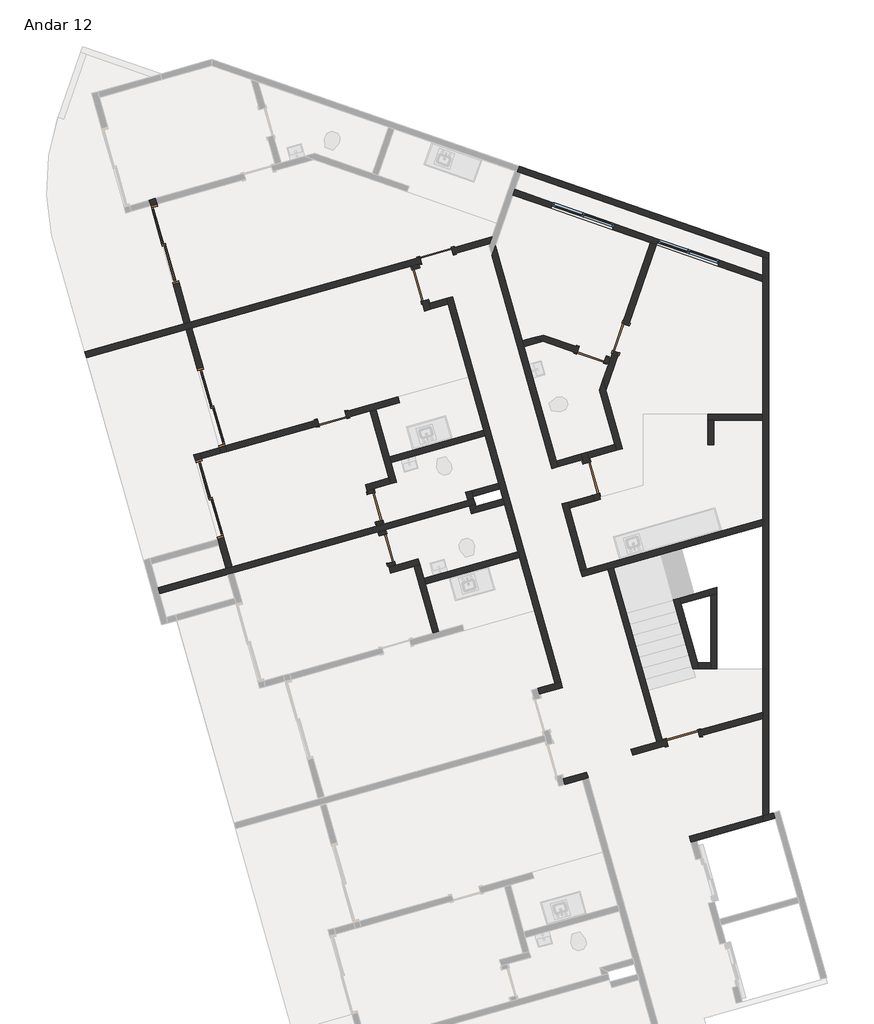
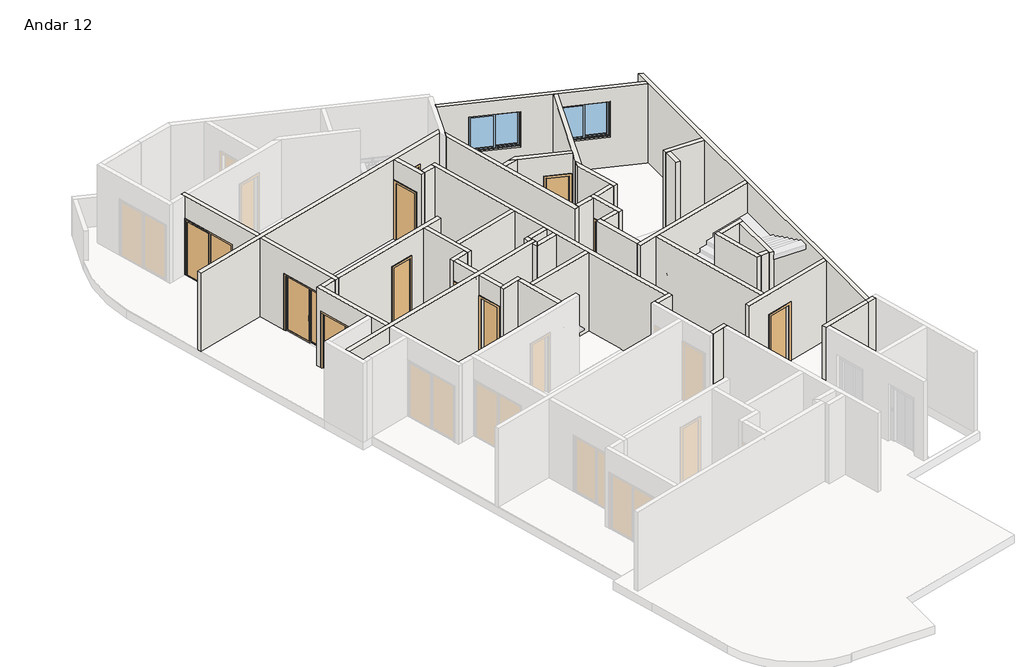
# One storey, part 2 of 3: 48 walls, 12 doors, 2 windows.
"""IFC4 building model written with IfcOpenShell, lengths in millimetres."""

from ifc_helpers import new_model, si_unit, frame, origin, place, context, project, spatial, polyline, outline, extrude, faceted_brep, transform, mapped, element, save
from components import p2_80cm_9d4be4ef, p2_80cm_083652d6, p3_70cm_ef4d15e3, p3_70cm_0a698c7c, p4_correr_200cm_eaaa0877, jx_160cm_e9e36a0c

model = new_model("IFC4")

# Units and contexts
model_context = context("Model", 3, world=origin())
ifc_project = project(units=[si_unit("LENGTHUNIT", "METRE", prefix="MILLI")], contexts=[model_context])

# Site, building, storey
site = spatial("IfcSite", under=ifc_project)
building = spatial("IfcBuilding", under=site)
storey = spatial("IfcBuildingStorey", under=building, Name="Andar 12", Elevation=85550.0)

# Doors
placement = place(None, origin())
p2_80cm_shape = p2_80cm_9d4be4ef(model_context)
element("IfcDoor", 1, ObjectType="M_Folha única1 : P2 - 80CM", at=placement, inside=storey, context=model_context, shape_type="MappedRepresentation", body=[
    mapped(p2_80cm_shape, transform((-83145.1128896, 30941.0402894, 85550.0), x_axis=(-0.9623628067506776, -0.2717679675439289, 0.0), y_axis=(0.2717679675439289, -0.9623628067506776, 0.0), z_axis=(0.0, 0.0, 1.0))),
])
element("IfcDoor", 2, ObjectType="M_Folha única1 : P2 - 80CM", at=placement, inside=storey, context=model_context, shape_type="MappedRepresentation", body=[
    mapped(p2_80cm_shape, transform((-79349.4097406, 25479.1041247, 85550.0), x_axis=(-0.27176796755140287, 0.962362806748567, 0.0), y_axis=(-0.962362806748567, -0.27176796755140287, 0.0), z_axis=(0.0, 0.0, 1.0))),
])
p2_80cm_2_shape = p2_80cm_083652d6(model_context)
element("IfcDoor", 3, ObjectType="M_Folha única1 : P2 - 80CM", at=placement, inside=storey, context=model_context, shape_type="MappedRepresentation", body=[
    mapped(p2_80cm_2_shape, transform((-83542.2049222, 30231.4150941, 85550.0), x_axis=(-0.2717679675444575, 0.9623628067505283, 0.0), y_axis=(-0.9623628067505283, -0.2717679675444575, 0.0), z_axis=(0.0, 0.0, 1.0))),
])
p3_70cm_shape = p3_70cm_ef4d15e3(model_context)
element("IfcDoor", 4, ObjectType="M_Folha única1 : P3 - 70CM", at=placement, inside=storey, context=model_context, shape_type="MappedRepresentation", body=[
    mapped(p3_70cm_shape, transform((-84650.97864, 24774.7108835, 85550.0), x_axis=(0.2717679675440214, -0.9623628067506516, 0.0), y_axis=(0.9623628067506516, 0.2717679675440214, 0.0), z_axis=(0.0, 0.0, 1.0))),
])
p3_70cm_2_shape = p3_70cm_0a698c7c(model_context)
element("IfcDoor", 5, ObjectType="M_Folha única1 : P3 - 70CM", at=placement, inside=storey, context=model_context, shape_type="MappedRepresentation", body=[
    mapped(p3_70cm_2_shape, transform((-84365.6222741, 23764.2299364, 85550.0), x_axis=(-0.2717679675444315, 0.9623628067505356, 0.0), y_axis=(-0.9623628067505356, -0.2717679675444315, 0.0), z_axis=(0.0, 0.0, 1.0))),
])
element("IfcDoor", 6, ObjectType="M_Folha única1 : P3 - 70CM", at=placement, inside=storey, context=model_context, shape_type="MappedRepresentation", body=[
    mapped(p3_70cm_2_shape, transform((-85705.4317558, 26944.8211633, 85550.0), x_axis=(0.9623628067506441, 0.2717679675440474, 0.0), y_axis=(-0.2717679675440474, 0.9623628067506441, 0.0), z_axis=(0.0, 0.0, 1.0))),
])
element("IfcDoor", 7, ObjectType="M_Folha única1 : P3 - 70CM", at=placement, inside=storey, context=model_context, shape_type="MappedRepresentation", body=[
    mapped(p3_70cm_2_shape, transform((-79346.1223746, 28509.6973665, 85550.0), x_axis=(0.9449109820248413, -0.32732741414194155, 0.0), y_axis=(0.32732741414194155, 0.9449109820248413, 0.0), z_axis=(0.0, 0.0, 1.0))),
])
element("IfcDoor", 8, ObjectType="M_Folha única1 : P3 - 70CM", at=placement, inside=storey, context=model_context, shape_type="MappedRepresentation", body=[
    mapped(p3_70cm_2_shape, transform((-78626.5662556, 28921.8732895, 85550.0), x_axis=(-0.32732741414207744, -0.9449109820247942, 0.0), y_axis=(0.9449109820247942, -0.32732741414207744, 0.0), z_axis=(0.0, 0.0, 1.0))),
])
p4_correr_200cm_shape = p4_correr_200cm_eaaa0877(model_context)
element("IfcDoor", 9, ObjectType="Porta de correr dupla envidraçada sem revestimento : P4 - CORRER - 200CM", at=placement, inside=storey, context=model_context, shape_type="MappedRepresentation", body=[
    mapped(p4_correr_200cm_shape, transform((-89799.7974026, 31217.9316171, 85550.0), x_axis=(0.27176796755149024, -0.9623628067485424, 0.0), y_axis=(0.9623628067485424, 0.27176796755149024, 0.0), z_axis=(0.0, 0.0, 1.0))),
])
element("IfcDoor", 10, ObjectType="Porta de correr dupla envidraçada sem revestimento : P4 - CORRER - 200CM", at=placement, inside=storey, context=model_context, shape_type="MappedRepresentation", body=[
    mapped(p4_correr_200cm_shape, transform((-88671.9603372, 27224.125969, 85550.0), x_axis=(-0.27176796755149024, 0.9623628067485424, 0.0), y_axis=(-0.9623628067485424, -0.27176796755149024, 0.0), z_axis=(0.0, 0.0, 1.0))),
])
element("IfcDoor", 11, ObjectType="Porta de correr dupla envidraçada sem revestimento : P4 - CORRER - 200CM", at=placement, inside=storey, context=model_context, shape_type="MappedRepresentation", body=[
    mapped(p4_correr_200cm_shape, transform((-88709.3738038, 24979.4758572, 85550.0), x_axis=(-0.2717679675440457, 0.9623628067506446, 0.0), y_axis=(-0.9623628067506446, -0.2717679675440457, 0.0), z_axis=(0.0, 0.0, 1.0))),
])
element("IfcDoor", 12, ObjectType="M_Folha única1 : PCF1 - 80CM", at=placement, inside=storey, context=model_context, shape_type="MappedRepresentation", body=[
    mapped(p2_80cm_shape, transform((-77103.5502958, 19127.1105693, 85550.0), x_axis=(-0.9623628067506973, -0.2717679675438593, 0.0), y_axis=(0.2717679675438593, -0.9623628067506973, 0.0), z_axis=(0.0, 0.0, 1.0))),
])

# Walls
element("IfcWall", 13, ObjectType="Básica .15 -  Interna", at=placement, inside=storey, context=model_context, shape_type="Brep", body=[
    faceted_brep([(-82901.0804648, 29892.9118737, 85550.0), (-82860.3152697, 29748.5574527, 85550.0), (-81990.6577736, 26668.9964711, 85550.0), (-81949.8925784, 26524.6420501, 85550.0), (-81623.7710174, 25369.806682, 85550.0), (-81583.0058223, 25225.452261, 85550.0), (-81515.0638304, 24984.8615593, 85550.0), (-81474.2986352, 24840.5071383, 85550.0), (-81148.1770742, 23685.6717702, 85550.0), (-81107.4118791, 23541.3173492, 85550.0), (-80237.7543829, 20461.7563676, 85550.0), (-80237.7543829, 20461.7563676, 88450.0), (-81107.4118791, 23541.3173492, 88450.0), (-81148.1770742, 23685.6717702, 88450.0), (-81474.2986352, 24840.5071383, 88450.0), (-81515.0638304, 24984.8615593, 88450.0), (-81583.0058223, 25225.452261, 88450.0), (-81623.7710174, 25369.806682, 88450.0), (-81949.8925784, 26524.6420501, 88450.0), (-81990.6577736, 26668.9964711, 88450.0), (-82860.3152697, 29748.5574527, 88450.0), (-82901.0804648, 29892.9118737, 88450.0), (-82756.7260438, 29933.6770689, 85550.0), (-82756.7260438, 29933.6770689, 88450.0), (-80093.3999619, 20502.5215627, 88450.0), (-80093.3999619, 20502.5215627, 85550.0)], [[[0, 1, 2, 3, 4, 5, 6, 7, 8, 9, 10, 11, 12, 13, 14, 15, 16, 17, 18, 19, 20, 21]], [[22, 23, 24, 25]], [[10, 9, 8, 7, 6, 5, 4, 3, 2, 1, 0, 22, 25]], [[21, 20, 19, 18, 17, 16, 15, 14, 13, 12, 11, 24, 23]], [[0, 21, 23, 22]], [[11, 10, 25, 24]]]),
])
element("IfcWall", 14, ObjectType="Básica .15 -  Interna", at=placement, inside=storey, context=model_context, shape_type="Brep", body=[
    faceted_brep([(-83750.2661164, 30692.2138999, 85550.0), (-83723.0893197, 30595.9776193, 85550.0), (-83723.0893197, 30595.9776193, 87650.0), (-83505.6749457, 29826.0873739, 87650.0), (-83505.6749457, 29826.0873739, 85550.0), (-83437.7329538, 29585.4966722, 85550.0), (-83437.7329538, 29585.4966722, 88450.0), (-83750.2661164, 30692.2138999, 88450.0), (-83578.7348987, 30636.7428144, 87650.0), (-83578.7348987, 30636.7428144, 85550.0), (-83605.9116954, 30732.9790951, 85550.0), (-83605.9116954, 30732.9790951, 88450.0), (-83334.1437279, 29770.6162883, 88450.0), (-83293.3785328, 29626.2618673, 88450.0), (-83293.3785328, 29626.2618673, 85550.0), (-83334.1437279, 29770.6162883, 85550.0), (-83361.3205246, 29866.852569, 85550.0), (-83361.3205246, 29866.852569, 87650.0)], [[[0, 1, 2, 3, 4, 5, 6, 7]], [[8, 9, 10, 11, 12, 13, 14, 15, 16, 17]], [[10, 9, 1, 0]], [[16, 15, 14, 5, 4]], [[7, 6, 13, 12, 11]], [[6, 5, 14, 13]], [[0, 7, 11, 10]], [[2, 1, 9, 8]], [[3, 2, 8, 17]], [[4, 3, 17, 16]]]),
])
element("IfcWall", 15, ObjectType="Básica .15 -  Interna", at=placement, inside=storey, context=model_context, shape_type="SweptSolid", body=[
    extrude(outline(polyline([(-82860.3152697, 29748.5574527), (-83293.3785328, 29626.2618673), (-83334.1437279, 29770.6162883), (-82901.0804648, 29892.9118737), (-82860.3152697, 29748.5574527)])), frame((0.0, 0.0, 85550.0), z_axis=(0.0, 0.0, 1.0), x_axis=(1.0, 0.0, 0.0)), (0.0, 0.0, 1.0), 2900.0),
])
element("IfcWall", 16, ObjectType="Básica .15 -  Interna", at=placement, inside=storey, context=model_context, shape_type="Brep", body=[
    faceted_brep([(-80093.3999619, 20502.5215627, 85550.0), (-80237.7543829, 20461.7563676, 85550.0), (-80670.817646, 20339.4607822, 85550.0), (-80670.817646, 20339.4607822, 88450.0), (-80237.7543829, 20461.7563676, 88450.0), (-80093.3999619, 20502.5215627, 88450.0), (-80052.6347668, 20358.1671417, 85550.0), (-80052.6347668, 20358.1671417, 88450.0), (-80630.0524508, 20195.1063612, 88450.0), (-80630.0524508, 20195.1063612, 85550.0)], [[[0, 1, 2, 3, 4, 5]], [[6, 7, 8, 9]], [[2, 1, 0, 6, 9]], [[5, 4, 3, 8, 7]], [[3, 2, 9, 8]], [[0, 5, 7, 6]]]),
])
element("IfcWall", 17, ObjectType="Básica .15 -  Interna", at=placement, inside=storey, context=model_context, shape_type="Brep", body=[
    faceted_brep([(-80004.9861255, 17981.6719056, 85550.0), (-79571.9228624, 18103.967491, 85550.0), (-79427.5684414, 18144.7326862, 85550.0), (-79427.5684414, 18144.7326862, 88450.0), (-79571.9228624, 18103.967491, 88450.0), (-80004.9861255, 17981.6719056, 88450.0), (-80045.7513206, 18126.0263266, 85550.0), (-80045.7513206, 18126.0263266, 88450.0), (-79468.3336366, 18289.0871072, 88450.0), (-79468.3336366, 18289.0871072, 85550.0)], [[[0, 1, 2, 3, 4, 5]], [[6, 7, 8, 9]], [[2, 1, 0, 6, 9]], [[5, 4, 3, 8, 7]], [[3, 2, 9, 8]], [[0, 5, 7, 6]]]),
])
element("IfcWall", 18, ObjectType="Básica .15 -  Interna", at=placement, inside=storey, context=model_context, shape_type="Brep", body=[
    faceted_brep([(-88305.9570711, 23274.9583478, 88450.0), (-88469.0178517, 23852.3760319, 88450.0), (-88509.7830468, 23996.7304529, 88450.0), (-89094.084177, 26065.8104874, 88450.0), (-89094.084177, 26065.8104874, 85550.0), (-89053.3189819, 25921.4560664, 85550.0), (-89053.3189819, 25921.4560664, 87650.0), (-88509.7830468, 23996.7304529, 87650.0), (-88509.7830468, 23996.7304529, 85550.0), (-88469.0178517, 23852.3760319, 85550.0), (-88305.9570711, 23274.9583478, 85550.0), (-88949.729756, 26106.5756825, 88450.0), (-88908.9645609, 25962.2212615, 88450.0), (-88161.6026501, 23315.723543, 88450.0), (-88161.6026501, 23315.723543, 85550.0), (-88365.4286258, 24037.495648, 85550.0), (-88365.4286258, 24037.495648, 87650.0), (-88908.9645609, 25962.2212615, 87650.0), (-88908.9645609, 25962.2212615, 85550.0), (-88949.729756, 26106.5756825, 85550.0)], [[[0, 1, 2, 3, 4, 5, 6, 7, 8, 9, 10]], [[11, 12, 13, 14, 15, 16, 17, 18, 19]], [[4, 19, 18, 5]], [[14, 10, 9, 8, 15]], [[3, 2, 1, 0, 13, 12, 11]], [[4, 3, 11, 19]], [[0, 10, 14, 13]], [[17, 6, 5, 18]], [[6, 17, 16, 7]], [[7, 16, 15, 8]]]),
])
element("IfcWall", 19, ObjectType="Básica .15 -  Interna", at=placement, inside=storey, context=model_context, shape_type="Brep", body=[
    faceted_brep([(-89143.3190618, 29169.2341801, 88450.0), (-88328.0151592, 26282.1457598, 88450.0), (-88287.249964, 26137.7913388, 88450.0), (-88287.249964, 26137.7913388, 85550.0), (-88328.0151592, 26282.1457598, 85550.0), (-88328.0151592, 26282.1457598, 87650.0), (-88871.5510943, 28206.8713733, 87650.0), (-88871.5510943, 28206.8713733, 85550.0), (-89143.3190618, 29169.2341801, 85550.0), (-88431.604385, 26097.0261437, 88450.0), (-88472.3695802, 26241.3805647, 88450.0), (-89287.6734828, 29128.468985, 88450.0), (-89287.6734828, 29128.468985, 85550.0), (-89015.9055153, 28166.1061782, 85550.0), (-89015.9055153, 28166.1061782, 87650.0), (-88472.3695802, 26241.3805647, 87650.0), (-88472.3695802, 26241.3805647, 85550.0), (-88431.604385, 26097.0261437, 85550.0)], [[[0, 1, 2, 3, 4, 5, 6, 7, 8]], [[9, 10, 11, 12, 13, 14, 15, 16, 17]], [[3, 17, 16, 4]], [[12, 8, 7, 13]], [[2, 1, 0, 11, 10, 9]], [[3, 2, 9, 17]], [[0, 8, 12, 11]], [[6, 14, 13, 7]], [[14, 6, 5, 15]], [[15, 5, 4, 16]]]),
])
element("IfcWall", 20, ObjectType="Básica .15 -  Interna", at=placement, inside=storey, context=model_context, shape_type="Brep", body=[
    faceted_brep([(-76904.7538909, 16570.3643175, 85550.0), (-76760.3994699, 16611.1295126, 85550.0), (-75147.8282189, 17066.5141226, 85550.0), (-75147.8282189, 17066.5141226, 88450.0), (-76760.3994699, 16611.1295126, 88450.0), (-76904.7538909, 16570.3643175, 88450.0), (-76945.5190861, 16714.7187385, 85550.0), (-76945.5190861, 16714.7187385, 88450.0), (-75147.8282189, 17222.3804954, 88450.0), (-75147.8282189, 17222.3804954, 85550.0)], [[[0, 1, 2, 3, 4, 5]], [[6, 7, 8, 9]], [[2, 1, 0, 6, 9]], [[5, 4, 3, 8, 7]], [[0, 5, 7, 6]], [[3, 2, 9, 8]]]),
])
element("IfcWall", 21, ObjectType="Básica .15 -  Interna", at=placement, inside=storey, context=model_context, shape_type="Brep", body=[
    faceted_brep([(-79570.9048554, 23078.5590693, 85550.0), (-78948.2127609, 23254.4051886, 85550.0), (-78803.8582924, 23295.1703972, 85550.0), (-75147.8282189, 24327.6207947, 85550.0), (-75147.8282189, 24327.6207947, 88450.0), (-78803.8582924, 23295.1703972, 88450.0), (-78948.2127609, 23254.4051886, 88450.0), (-79570.9048554, 23078.5590693, 88450.0), (-79611.6700506, 23222.9134903, 85550.0), (-79611.6700506, 23222.9134903, 88450.0), (-79467.3156296, 23263.6786855, 88450.0), (-75147.8282189, 24483.4871675, 88450.0), (-75147.8282189, 24483.4871675, 85550.0), (-79467.3156296, 23263.6786855, 85550.0)], [[[0, 1, 2, 3, 4, 5, 6, 7]], [[8, 9, 10, 11, 12, 13]], [[3, 2, 1, 0, 8, 13, 12]], [[7, 6, 5, 4, 11, 10, 9]], [[0, 7, 9, 8]], [[4, 3, 12, 11]]]),
])
element("IfcWall", 22, ObjectType="Básica .15 -  Interna", at=placement, inside=storey, context=model_context, shape_type="SweptSolid", body=[
    extrude(outline(polyline([(-77749.4687652, 19022.6385875), (-78948.2127609, 23254.4051886), (-78803.8582924, 23295.1703972), (-77605.1142967, 19063.4037961), (-77749.4687652, 19022.6385875)])), frame((0.0, 0.0, 85550.0), z_axis=(0.0, 0.0, 1.0), x_axis=(1.0, 0.0, 0.0)), (0.0, 0.0, 1.0), 2900.0),
])
element("IfcWall", 23, ObjectType="Básica .15 -  Interna", at=placement, inside=storey, context=model_context, shape_type="Brep", body=[
    faceted_brep([(-77508.878016, 19090.5805928, 87650.0), (-77508.878016, 19090.5805928, 85550.0), (-77605.1142967, 19063.4037961, 85550.0), (-77749.4687652, 19022.6385875, 85550.0), (-78375.5945972, 18845.8227925, 85550.0), (-78375.5945972, 18845.8227925, 88450.0), (-77749.4687652, 19022.6385875, 88450.0), (-77605.1142967, 19063.4037961, 88450.0), (-75147.8282189, 19757.3329862, 88450.0), (-75147.8282189, 19757.3329862, 85550.0), (-76738.9877706, 19307.9949669, 85550.0), (-76738.9877706, 19307.9949669, 87650.0), (-78334.829402, 18701.4683715, 85550.0), (-77468.1128209, 18946.2261718, 85550.0), (-77468.1128209, 18946.2261718, 87650.0), (-76698.2225755, 19163.6405459, 87650.0), (-76698.2225755, 19163.6405459, 85550.0), (-75147.8282189, 19601.4666134, 85550.0), (-75147.8282189, 19601.4666134, 88450.0), (-78334.829402, 18701.4683715, 88450.0)], [[[0, 1, 2, 3, 4, 5, 6, 7, 8, 9, 10, 11]], [[12, 13, 14, 15, 16, 17, 18, 19]], [[10, 9, 17, 16]], [[4, 3, 2, 1, 13, 12]], [[5, 4, 12, 19]], [[8, 7, 6, 5, 19, 18]], [[14, 13, 1, 0]], [[15, 14, 0, 11]], [[16, 15, 11, 10]], [[9, 8, 18, 17]]]),
])
element("IfcWall", 24, ObjectType="Básica .15 - Externa", at=placement, inside=storey, context=model_context, shape_type="Brep", body=[
    faceted_brep([(-75147.8282189, 30909.9128092, 88450.0), (-75147.8282189, 30909.9128092, 85550.0), (-75147.8282189, 30461.6117638, 85550.0), (-75147.8282189, 30302.8666514, 85550.0), (-75147.8282189, 27060.8243598, 85550.0), (-75147.8282189, 26910.8243598, 85550.0), (-75147.8282189, 24483.4871675, 85550.0), (-75147.8282189, 24327.6207947, 85550.0), (-75147.8282189, 19757.3329862, 85550.0), (-75147.8282189, 19601.4666134, 85550.0), (-75147.8282189, 17222.3804954, 85550.0), (-75147.8282189, 17222.3804954, 88450.0), (-75147.8282189, 19601.4666134, 88450.0), (-75147.8282189, 19757.3329862, 88450.0), (-75147.8282189, 24327.6207947, 88450.0), (-75147.8282189, 24483.4871675, 88450.0), (-75147.8282189, 26910.8243598, 88450.0), (-75147.8282189, 27060.8243598, 88450.0), (-75147.8282189, 30302.8666514, 88450.0), (-75147.8282189, 30461.6117638, 88450.0), (-74997.8282189, 30857.9511821, 85550.0), (-74997.8282189, 30857.9511821, 86850.0), (-74997.8282189, 30857.9511821, 88150.0), (-74997.8282189, 30857.9511821, 88450.0), (-74997.8282189, 17264.7399828, 88450.0), (-74997.8282189, 17264.7399828, 85550.0)], [[[0, 1, 2, 3, 4, 5, 6, 7, 8, 9, 10, 11, 12, 13, 14, 15, 16, 17, 18, 19]], [[20, 21, 22, 23, 24, 25]], [[10, 9, 8, 7, 6, 5, 4, 3, 2, 1, 20, 25]], [[0, 19, 18, 17, 16, 15, 14, 13, 12, 11, 24, 23]], [[11, 10, 25, 24]], [[0, 23, 22, 21, 20, 1]]]),
])
element("IfcWall", 25, ObjectType="Básica .15 -  Interna", at=placement, inside=storey, context=model_context, shape_type="Brep", body=[
    faceted_brep([(-80073.6755954, 24858.9302618, 85550.0), (-79611.6700506, 23222.9134903, 85550.0), (-79611.6700506, 23222.9134903, 88450.0), (-80073.6755954, 24858.9302618, 88450.0), (-79929.3211744, 24899.695457, 85550.0), (-79929.3211744, 24899.695457, 88450.0), (-79888.5559793, 24755.3410359, 88450.0), (-79467.3156296, 23263.6786855, 88450.0), (-79467.3156296, 23263.6786855, 85550.0), (-79888.5559793, 24755.3410359, 85550.0)], [[[0, 1, 2, 3]], [[4, 5, 6, 7, 8, 9]], [[1, 0, 4, 9, 8]], [[3, 2, 7, 6, 5]], [[0, 3, 5, 4]], [[2, 1, 8, 7]]]),
])
element("IfcWall", 26, ObjectType="Básica .15 -  Interna", at=placement, inside=storey, context=model_context, shape_type="Brep", body=[
    faceted_brep([(-79888.5559793, 24755.3410359, 85550.0), (-79272.1145689, 24929.4219834, 85550.0), (-79272.1145689, 24929.4219834, 88450.0), (-79888.5559793, 24755.3410359, 88450.0), (-79929.3211744, 24899.695457, 85550.0), (-79929.3211744, 24899.695457, 88450.0), (-79312.8797641, 25073.7764044, 88450.0), (-79312.8797641, 25073.7764044, 87650.0), (-79312.8797641, 25073.7764044, 85550.0)], [[[0, 1, 2, 3]], [[4, 5, 6, 7, 8]], [[1, 0, 4, 8]], [[3, 2, 6, 5]], [[0, 3, 5, 4]], [[2, 1, 8, 7, 6]]]),
])
element("IfcWall", 27, ObjectType="Básica .15 -  Interna", at=placement, inside=storey, context=model_context, shape_type="Brep", body=[
    faceted_brep([(-79598.23613, 26084.2573515, 85550.0), (-79557.4709349, 25939.9029305, 85550.0), (-79530.2941381, 25843.6666498, 85550.0), (-79530.2941381, 25843.6666498, 87650.0), (-79312.8797641, 25073.7764044, 87650.0), (-79312.8797641, 25073.7764044, 85550.0), (-79272.1145689, 24929.4219834, 85550.0), (-79272.1145689, 24929.4219834, 88450.0), (-79312.8797641, 25073.7764044, 88450.0), (-79557.4709349, 25939.9029305, 88450.0), (-79598.23613, 26084.2573515, 88450.0), (-79385.9397171, 25884.4318449, 87650.0), (-79385.9397171, 25884.4318449, 85550.0), (-79413.1165138, 25980.6681256, 85550.0), (-79453.881709, 26125.0225466, 85550.0), (-79453.881709, 26125.0225466, 88450.0), (-79413.1165138, 25980.6681256, 88450.0), (-79127.7601479, 24970.1871785, 88450.0), (-79127.7601479, 24970.1871785, 85550.0), (-79168.5253431, 25114.5415995, 85550.0), (-79168.5253431, 25114.5415995, 87650.0)], [[[0, 1, 2, 3, 4, 5, 6, 7, 8, 9, 10]], [[11, 12, 13, 14, 15, 16, 17, 18, 19, 20]], [[19, 18, 6, 5]], [[14, 13, 12, 2, 1, 0]], [[10, 9, 8, 7, 17, 16, 15]], [[7, 6, 18, 17]], [[0, 10, 15, 14]], [[3, 2, 12, 11]], [[4, 3, 11, 20]], [[5, 4, 20, 19]]]),
])
element("IfcWall", 28, ObjectType="Básica .15 -  Interna", at=placement, inside=storey, context=model_context, shape_type="Brep", body=[
    faceted_brep([(-81789.2550074, 30934.0017027, 85550.0), (-80318.2667662, 25725.0567879, 85550.0), (-80318.2667662, 25725.0567879, 88450.0), (-81789.2550074, 30934.0017027, 88450.0), (-81703.3880158, 31181.8778654, 85550.0), (-81703.3880158, 31181.8778654, 88450.0), (-81045.1503443, 28850.9797144, 88450.0), (-81004.3851492, 28706.6252933, 88450.0), (-80214.6775403, 25910.176404, 88450.0), (-80173.9123452, 25765.821983, 88450.0), (-80173.9123452, 25765.821983, 85550.0), (-80214.6775403, 25910.176404, 85550.0), (-81004.3851492, 28706.6252933, 85550.0), (-81045.1503443, 28850.9797144, 85550.0)], [[[0, 1, 2, 3]], [[4, 5, 6, 7, 8, 9, 10, 11, 12, 13]], [[1, 0, 4, 13, 12, 11, 10]], [[3, 2, 9, 8, 7, 6, 5]], [[0, 3, 5, 4]], [[2, 1, 10, 9]]]),
])
element("IfcWall", 29, ObjectType="Básica .15 -  Interna", at=placement, inside=storey, context=model_context, shape_type="Brep", body=[
    faceted_brep([(-88908.9645609, 25962.2212615, 85550.0), (-88431.604385, 26097.0261437, 85550.0), (-88431.604385, 26097.0261437, 88450.0), (-88908.9645609, 25962.2212615, 88450.0), (-88908.9645609, 25962.2212615, 87650.0), (-88949.729756, 26106.5756825, 85550.0), (-88949.729756, 26106.5756825, 88450.0), (-88472.3695802, 26241.3805647, 88450.0), (-88472.3695802, 26241.3805647, 85550.0)], [[[0, 1, 2, 3, 4]], [[5, 6, 7, 8]], [[1, 0, 5, 8]], [[3, 2, 7, 6]], [[0, 4, 3, 6, 5]], [[2, 1, 8, 7]]]),
])
element("IfcWall", 30, ObjectType="Básica .15 -  Interna", at=placement, inside=storey, context=model_context, shape_type="SweptSolid", body=[
    extrude(outline(polyline([(-79557.4709349, 25939.9029305), (-80173.9123452, 25765.821983), (-80214.6775403, 25910.176404), (-79598.23613, 26084.2573515), (-79557.4709349, 25939.9029305)])), frame((0.0, 0.0, 85550.0), z_axis=(0.0, 0.0, 1.0), x_axis=(1.0, 0.0, 0.0)), (0.0, 0.0, 1.0), 2900.0),
])
element("IfcWall", 31, ObjectType="Básica .15 -  Interna", at=placement, inside=storey, context=model_context, shape_type="Brep", body=[
    faceted_brep([(-91725.2428613, 28440.1077234, 85550.0), (-89287.6734828, 29128.468985, 85550.0), (-89143.3190618, 29169.2341801, 85550.0), (-83750.2661164, 30692.2138999, 85550.0), (-83605.9116954, 30732.9790951, 85550.0), (-83509.6754148, 30760.1558918, 85550.0), (-83509.6754148, 30760.1558918, 87650.0), (-82739.7851694, 30977.5702659, 87650.0), (-82739.7851694, 30977.5702659, 85550.0), (-81845.4155775, 31230.1371819, 85550.0), (-81845.4155775, 31230.1371819, 88450.0), (-83605.9116954, 30732.9790951, 88450.0), (-83750.2661164, 30692.2138999, 88450.0), (-89143.3190618, 29169.2341801, 88450.0), (-89287.6734828, 29128.468985, 88450.0), (-91725.2428613, 28440.1077234, 88450.0), (-83550.4406099, 30904.5103128, 87650.0), (-83550.4406099, 30904.5103128, 85550.0), (-89184.084257, 29313.5886011, 85550.0), (-89328.438678, 29272.823406, 85550.0), (-91766.0080564, 28584.4621444, 85550.0), (-91766.0080564, 28584.4621444, 88450.0), (-89328.438678, 29272.823406, 88450.0), (-89184.084257, 29313.5886011, 88450.0), (-81785.5670817, 31402.9045654, 88450.0), (-81785.5670817, 31402.9045654, 85550.0), (-82780.5503645, 31121.9246869, 85550.0), (-82780.5503645, 31121.9246869, 87650.0)], [[[0, 1, 2, 3, 4, 5, 6, 7, 8, 9, 10, 11, 12, 13, 14, 15]], [[16, 17, 18, 19, 20, 21, 22, 23, 24, 25, 26, 27]], [[26, 25, 9, 8]], [[20, 19, 18, 17, 5, 4, 3, 2, 1, 0]], [[15, 14, 13, 12, 11, 10, 24, 23, 22, 21]], [[0, 15, 21, 20]], [[10, 9, 25, 24]], [[6, 5, 17, 16]], [[7, 6, 16, 27]], [[8, 7, 27, 26]]]),
])
element("IfcWall", 32, ObjectType="Básica .15 -  Interna", at=placement, inside=storey, context=model_context, shape_type="Brep", body=[
    faceted_brep([(-90040.1533547, 32345.0314424, 88450.0), (-89999.3881596, 32200.6770214, 88450.0), (-89184.084257, 29313.5886011, 88450.0), (-89184.084257, 29313.5886011, 85550.0), (-89455.8522245, 30275.9514079, 85550.0), (-89455.8522245, 30275.9514079, 87650.0), (-89999.3881596, 32200.6770214, 87650.0), (-89999.3881596, 32200.6770214, 85550.0), (-90040.1533547, 32345.0314424, 85550.0), (-89328.438678, 29272.823406, 88450.0), (-90143.7425806, 32159.9118263, 88450.0), (-90184.5077758, 32304.2662473, 88450.0), (-90184.5077758, 32304.2662473, 85550.0), (-90143.7425806, 32159.9118262, 85550.0), (-90143.7425806, 32159.9118262, 87650.0), (-89600.2066455, 30235.1862128, 87650.0), (-89600.2066455, 30235.1862128, 85550.0), (-89328.438678, 29272.823406, 85550.0)], [[[0, 1, 2, 3, 4, 5, 6, 7, 8]], [[9, 10, 11, 12, 13, 14, 15, 16, 17]], [[12, 8, 7, 13]], [[3, 17, 16, 4]], [[2, 1, 0, 11, 10, 9]], [[0, 8, 12, 11]], [[3, 2, 9, 17]], [[15, 5, 4, 16]], [[5, 15, 14, 6]], [[6, 14, 13, 7]]]),
])
element("IfcWall", 33, ObjectType="Básica .15 -  Interna", at=placement, inside=storey, context=model_context, shape_type="Brep", body=[
    faceted_brep([(-89936.6922366, 22658.5779377, 85550.0), (-88265.191876, 23130.6039268, 85550.0), (-88120.837455, 23171.369122, 85550.0), (-84560.09507, 24176.9106019, 85550.0), (-84415.740649, 24217.675797, 85550.0), (-82192.6825654, 24845.459802, 85550.0), (-82192.6825654, 24845.459802, 88450.0), (-84415.740649, 24217.675797, 88450.0), (-84560.09507, 24176.9106019, 88450.0), (-88120.837455, 23171.369122, 88450.0), (-88265.191876, 23130.6039268, 88450.0), (-89936.6922366, 22658.5779377, 88450.0), (-89977.4574318, 22802.9323587, 85550.0), (-89977.4574318, 22802.9323587, 88450.0), (-88305.9570711, 23274.9583478, 88450.0), (-88161.6026501, 23315.723543, 88450.0), (-84600.8602651, 24321.2650229, 88450.0), (-84456.5058441, 24362.030218, 88450.0), (-82233.4477605, 24989.814223, 88450.0), (-82233.4477605, 24989.814223, 85550.0), (-84456.5058441, 24362.030218, 85550.0), (-84600.8602651, 24321.2650229, 85550.0), (-88161.6026501, 23315.723543, 85550.0), (-88305.9570711, 23274.9583478, 85550.0)], [[[0, 1, 2, 3, 4, 5, 6, 7, 8, 9, 10, 11]], [[12, 13, 14, 15, 16, 17, 18, 19, 20, 21, 22, 23]], [[5, 4, 3, 2, 1, 0, 12, 23, 22, 21, 20, 19]], [[6, 5, 19, 18]], [[11, 10, 9, 8, 7, 6, 18, 17, 16, 15, 14, 13]], [[0, 11, 13, 12]]]),
])
element("IfcWall", 34, ObjectType="Básica .15 -  Interna", at=placement, inside=storey, context=model_context, shape_type="Brep", body=[
    faceted_brep([(-81272.8781344, 32424.6503839, 85550.0), (-77897.5766162, 31255.4093243, 85550.0), (-77755.8399689, 31206.3102121, 85550.0), (-75147.8282189, 30302.8666514, 85550.0), (-75147.8282189, 30302.8666514, 88450.0), (-77755.8399689, 31206.3102121, 88450.0), (-77897.5766162, 31255.4093243, 88450.0), (-81272.8781344, 32424.6503839, 88450.0), (-78829.2985897, 31578.1679228, 86650.0), (-80341.1561609, 32101.8917854, 86650.0), (-80341.1561609, 32101.8917854, 87950.0), (-78829.2985897, 31578.1679228, 87950.0), (-76243.9823976, 30682.5863495, 86650.0), (-77755.8399689, 31206.3102121, 86650.0), (-77755.8399689, 31206.3102121, 87950.0), (-76243.9823976, 30682.5863495, 87950.0), (-81223.7790223, 32566.3870312, 85550.0), (-81223.7790223, 32566.3870312, 88450.0), (-75147.8282189, 30461.6117638, 88450.0), (-75147.8282189, 30461.6117638, 85550.0), (-78780.1994776, 31719.9045701, 86650.0), (-78780.1994776, 31719.9045701, 87950.0), (-80292.0570488, 32243.6284327, 87950.0), (-80292.0570488, 32243.6284327, 86650.0), (-76194.8832855, 30824.3229968, 86650.0), (-76194.8832855, 30824.3229968, 87950.0), (-77706.7408568, 31348.0468595, 87950.0), (-77706.7408568, 31348.0468595, 86650.0)], [[[0, 1, 2, 3, 4, 5, 6, 7], [8, 9, 10, 11], [12, 13, 14, 15]], [[16, 17, 18, 19], [20, 21, 22, 23], [24, 25, 26, 27]], [[3, 2, 1, 0, 16, 19]], [[7, 6, 5, 4, 18, 17]], [[0, 7, 17, 16]], [[21, 20, 8, 11]], [[22, 21, 11, 10]], [[23, 22, 10, 9]], [[20, 23, 9, 8]], [[25, 24, 12, 15]], [[26, 25, 15, 14]], [[27, 26, 14, 13]], [[24, 27, 13, 12]], [[4, 3, 19, 18]]]),
])
element("IfcWall", 35, ObjectType="Básica .15 - Externa", at=placement, inside=storey, context=model_context, shape_type="Brep", body=[
    faceted_brep([(-81156.3583355, 32991.3328194, 86850.0), (-81156.3583355, 32991.3328194, 85550.0), (-81156.3583355, 32991.3328194, 85250.0), (-81085.1216301, 32966.655652, 85250.0), (-74997.8282189, 30857.9511821, 85250.0), (-74997.8282189, 30857.9511821, 85550.0), (-74997.8282189, 30857.9511821, 86850.0), (-81085.1216301, 32966.655652, 86850.0), (-81107.2592234, 33133.0694667, 85250.0), (-81107.2592234, 33133.0694667, 85550.0), (-81107.2592234, 33133.0694667, 86850.0), (-81036.022518, 33108.3922993, 86850.0), (-74997.8282189, 31016.6962944, 86850.0), (-74997.8282189, 31016.6962944, 85250.0), (-81036.022518, 33108.3922993, 85250.0)], [[[0, 1, 2, 3, 4, 5, 6, 7]], [[8, 9, 10, 11, 12, 13, 14]], [[4, 3, 2, 8, 14, 13]], [[0, 7, 6, 12, 11, 10]], [[0, 10, 9, 8, 2, 1]], [[4, 13, 12, 6, 5]]]),
])
element("IfcWall", 36, ObjectType="Básica .15 -  Interna", at=placement, inside=storey, context=model_context, shape_type="SweptSolid", body=[
    extrude(outline(polyline([(-82179.094167, 24797.3416617), (-81515.0638304, 24984.8615593), (-81474.2986352, 24840.5071383), (-82282.6833929, 24612.2220455), (-82179.094167, 24797.3416617)])), frame((0.0, 0.0, 85550.0), z_axis=(0.0, 0.0, 1.0), x_axis=(1.0, 0.0, 0.0)), (0.0, 0.0, 1.0), 2900.0),
])
element("IfcWall", 37, ObjectType="Básica .15 -  Interna", at=placement, inside=storey, context=model_context, shape_type="SweptSolid", body=[
    extrude(outline(polyline([(-82192.6825654, 24845.459802), (-82179.094167, 24797.3416617), (-82282.6833929, 24612.2220455), (-82337.0369864, 24804.6946069), (-82192.6825654, 24845.459802)])), frame((0.0, 0.0, 85550.0), z_axis=(0.0, 0.0, 1.0), x_axis=(1.0, 0.0, 0.0)), (0.0, 0.0, 1.0), 2900.0),
])
element("IfcWall", 38, ObjectType="Básica .15 -  Interna", at=placement, inside=storey, context=model_context, shape_type="Brep", body=[
    faceted_brep([(-83593.7317942, 23514.6100515, 85550.0), (-84171.1494782, 23351.5492709, 85550.0), (-84315.5038992, 23310.7840758, 85550.0), (-84315.5038992, 23310.7840758, 88450.0), (-84171.1494782, 23351.5492709, 88450.0), (-83593.7317942, 23514.6100515, 88450.0), (-83552.966599, 23370.2556304, 85550.0), (-83552.966599, 23370.2556304, 88450.0), (-83697.32102, 23329.4904353, 88450.0), (-84274.7387041, 23166.4296548, 88450.0), (-84274.7387041, 23166.4296548, 85550.0), (-83697.32102, 23329.4904353, 85550.0)], [[[0, 1, 2, 3, 4, 5]], [[6, 7, 8, 9, 10, 11]], [[2, 1, 0, 6, 11, 10]], [[5, 4, 3, 9, 8, 7]], [[0, 5, 7, 6]], [[3, 2, 10, 9]]]),
])
element("IfcWall", 39, ObjectType="Básica .15 -  Interna", at=placement, inside=storey, context=model_context, shape_type="Brep", body=[
    faceted_brep([(-83090.9610542, 21734.238859, 85550.0), (-83417.0826153, 22889.0742271, 85550.0), (-83457.8478104, 23033.4286481, 85550.0), (-83552.966599, 23370.2556304, 85550.0), (-83552.966599, 23370.2556304, 88450.0), (-83457.8478104, 23033.4286481, 88450.0), (-83417.0826153, 22889.0742271, 88450.0), (-83090.9610542, 21734.238859, 88450.0), (-83235.3154752, 21693.4736638, 85550.0), (-83235.3154752, 21693.4736638, 88450.0), (-83697.32102, 23329.4904353, 88450.0), (-83697.32102, 23329.4904353, 85550.0)], [[[0, 1, 2, 3, 4, 5, 6, 7]], [[8, 9, 10, 11]], [[3, 2, 1, 0, 8, 11]], [[7, 6, 5, 4, 10, 9]], [[0, 7, 9, 8]], [[4, 3, 11, 10]]]),
])
element("IfcWall", 40, ObjectType="Básica .15 -  Interna", at=placement, inside=storey, context=model_context, shape_type="SweptSolid", body=[
    extrude(outline(polyline([(-83457.8478104, 23033.4286481), (-81148.1770742, 23685.6717702), (-81107.4118791, 23541.3173492), (-83417.0826153, 22889.0742271), (-83457.8478104, 23033.4286481)])), frame((0.0, 0.0, 85550.0), z_axis=(0.0, 0.0, 1.0), x_axis=(1.0, 0.0, 0.0)), (0.0, 0.0, 1.0), 2900.0),
])
element("IfcWall", 41, ObjectType="Básica .15 -  Interna", at=placement, inside=storey, context=model_context, shape_type="SweptSolid", body=[
    extrude(outline(polyline([(150.0, 0.0), (250.0, 0.0), (250.0, -2100.0), (950.0, -2100.0), (950.0, 0.0), (1050.0, 0.0), (1050.0, -2900.0), (150.0, -2900.0), (150.0, 0.0)])), frame((-84600.8602651, 24321.2650229, 85550.0), z_axis=(0.9623628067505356, 0.2717679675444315, 0.0), x_axis=(0.2717679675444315, -0.9623628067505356, 0.0)), (0.0, 0.0, 1.0), 150.0),
])
element("IfcWall", 42, ObjectType="Básica .15 -  Interna", at=placement, inside=storey, context=model_context, shape_type="Brep", body=[
    faceted_brep([(-84770.8044918, 27130.823522, 85550.0), (-84308.798947, 25494.8067505, 85550.0), (-84268.0337519, 25350.4523295, 85550.0), (-84268.0337519, 25350.4523295, 88450.0), (-84308.798947, 25494.8067505, 88450.0), (-84770.8044918, 27130.823522, 88450.0), (-84626.4500708, 27171.5887171, 85550.0), (-84626.4500708, 27171.5887171, 88450.0), (-84300.3285098, 26016.753349, 88450.0), (-84259.5633146, 25872.398928, 88450.0), (-84123.6793309, 25391.2175246, 88450.0), (-84123.6793309, 25391.2175246, 85550.0), (-84259.5633146, 25872.398928, 85550.0), (-84300.3285098, 26016.753349, 85550.0)], [[[0, 1, 2, 3, 4, 5]], [[6, 7, 8, 9, 10, 11, 12, 13]], [[2, 1, 0, 6, 13, 12, 11]], [[5, 4, 3, 10, 9, 8, 7]], [[3, 2, 11, 10]], [[0, 5, 7, 6]]]),
])
element("IfcWall", 43, ObjectType="Básica .15 -  Interna", at=placement, inside=storey, context=model_context, shape_type="SweptSolid", body=[
    extrude(outline(polyline([(-84300.3285098, 26016.753349), (-81990.6577736, 26668.9964711), (-81949.8925784, 26524.6420501), (-84259.5633146, 25872.398928), (-84300.3285098, 26016.753349)])), frame((0.0, 0.0, 85550.0), z_axis=(0.0, 0.0, 1.0), x_axis=(1.0, 0.0, 0.0)), (0.0, 0.0, 1.0), 2900.0),
])
element("IfcWall", 44, ObjectType="Básica .15 -  Interna", at=placement, inside=storey, context=model_context, shape_type="Brep", body=[
    faceted_brep([(-84308.798947, 25494.8067505, 85550.0), (-84886.2166311, 25331.74597, 85550.0), (-84886.2166311, 25331.74597, 88450.0), (-84308.798947, 25494.8067505, 88450.0), (-84268.0337519, 25350.4523295, 85550.0), (-84268.0337519, 25350.4523295, 88450.0), (-84701.0970149, 25228.1567441, 88450.0), (-84845.4514359, 25187.391549, 88450.0), (-84845.4514359, 25187.391549, 85550.0), (-84701.0970149, 25228.1567441, 85550.0)], [[[0, 1, 2, 3]], [[4, 5, 6, 7, 8, 9]], [[1, 0, 4, 9, 8]], [[3, 2, 7, 6, 5]], [[2, 1, 8, 7]], [[0, 3, 5, 4]]]),
])
element("IfcWall", 45, ObjectType="Básica .15 -  Interna", at=placement, inside=storey, context=model_context, shape_type="SweptSolid", body=[
    extrude(outline(polyline([(800.0, -2100.0), (800.0, 0.0), (900.0, 0.0), (900.0, -2900.0), (0.0, -2900.0), (0.0, 0.0), (100.0, 0.0), (100.0, -2100.0), (800.0, -2100.0)])), frame((-84845.4514359, 25187.391549, 85550.0), z_axis=(0.9623628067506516, 0.2717679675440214, 0.0), x_axis=(0.2717679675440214, -0.9623628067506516, 0.0)), (0.0, 0.0, 1.0), 150.0),
])
element("IfcWall", 46, ObjectType="Básica .15 -  Interna", at=placement, inside=storey, context=model_context, shape_type="Brep", body=[
    faceted_brep([(-82432.1557751, 25141.5215893, 85550.0), (-82377.8021816, 24949.0490279, 85550.0), (-82377.8021816, 24949.0490279, 88450.0), (-82432.1557751, 25141.5215893, 88450.0), (-82287.801354, 25182.2867844, 85550.0), (-82287.801354, 25182.2867844, 88450.0), (-82247.0361589, 25037.9323634, 88450.0), (-82233.4477605, 24989.814223, 88450.0), (-82233.4477605, 24989.814223, 85550.0), (-82247.0361589, 25037.9323634, 85550.0)], [[[0, 1, 2, 3]], [[4, 5, 6, 7, 8, 9]], [[1, 0, 4, 9, 8]], [[2, 1, 8, 7]], [[3, 2, 7, 6, 5]], [[0, 3, 5, 4]]]),
])
element("IfcWall", 47, ObjectType="Básica .15 -  Interna", at=placement, inside=storey, context=model_context, shape_type="SweptSolid", body=[
    extrude(outline(polyline([(-81583.0058223, 25225.452261), (-82247.0361589, 25037.9323634), (-82287.801354, 25182.2867844), (-81623.7710174, 25369.806682), (-81583.0058223, 25225.452261)])), frame((0.0, 0.0, 85550.0), z_axis=(0.0, 0.0, 1.0), x_axis=(1.0, 0.0, 0.0)), (0.0, 0.0, 1.0), 2900.0),
])
element("IfcWall", 48, ObjectType="Básica .15 -  Interna", at=placement, inside=storey, context=model_context, shape_type="Brep", body=[
    faceted_brep([(-76493.6479314, 26910.8243598, 85550.0), (-76343.6479314, 26910.8243598, 85550.0), (-75147.8282189, 26910.8243598, 85550.0), (-75147.8282189, 26910.8243598, 88450.0), (-76343.6479314, 26910.8243598, 88450.0), (-76493.6479314, 26910.8243598, 88450.0), (-76493.6479314, 27060.8243598, 85550.0), (-76493.6479314, 27060.8243598, 88450.0), (-75147.8282189, 27060.8243598, 88450.0), (-75147.8282189, 27060.8243598, 85550.0)], [[[0, 1, 2, 3, 4, 5]], [[6, 7, 8, 9]], [[2, 1, 0, 6, 9]], [[5, 4, 3, 8, 7]], [[0, 5, 7, 6]], [[3, 2, 9, 8]]]),
])
element("IfcWall", 49, ObjectType="Básica .15 -  Interna", at=placement, inside=storey, context=model_context, shape_type="SweptSolid", body=[
    extrude(outline(polyline([(-76343.6479314, 26910.8243598), (-76343.6479314, 26310.8243598), (-76493.6479314, 26310.8243598), (-76493.6479314, 26910.8243598), (-76343.6479314, 26910.8243598)])), frame((0.0, 0.0, 85550.0), z_axis=(0.0, 0.0, 1.0), x_axis=(1.0, 0.0, 0.0)), (0.0, 0.0, 1.0), 2900.0),
])
element("IfcWall", 50, ObjectType="Básica .15 -  Interna", at=placement, inside=storey, context=model_context, shape_type="Brep", body=[
    faceted_brep([(-78877.464657, 28426.7218055, 85550.0), (-78990.8539749, 28466.0010952, 85550.0), (-78990.8539749, 28466.0010952, 87650.0), (-79652.2916623, 28695.1302851, 87650.0), (-79652.2916623, 28695.1302851, 85550.0), (-80525.6718652, 28997.6786614, 85550.0), (-80525.6718652, 28997.6786614, 88450.0), (-78877.464657, 28426.7218055, 88450.0), (-79039.953087, 28324.2644479, 87650.0), (-79039.953087, 28324.2644479, 85550.0), (-78926.5637691, 28284.9851582, 85550.0), (-78926.5637691, 28284.9851582, 88450.0), (-80530.2499593, 28840.5194505, 88450.0), (-80778.126122, 28926.3864421, 88450.0), (-80778.126122, 28926.3864421, 85550.0), (-80530.2499593, 28840.5194505, 85550.0), (-79701.3907744, 28553.3936378, 85550.0), (-79701.3907744, 28553.3936378, 87650.0)], [[[0, 1, 2, 3, 4, 5, 6, 7]], [[8, 9, 10, 11, 12, 13, 14, 15, 16, 17]], [[10, 9, 1, 0]], [[16, 15, 14, 5, 4]], [[7, 6, 13, 12, 11]], [[2, 1, 9, 8]], [[3, 2, 8, 17]], [[4, 3, 17, 16]], [[6, 5, 14, 13]], [[0, 7, 11, 10]]]),
])
element("IfcWall", 51, ObjectType="Básica .15 -  Interna", at=placement, inside=storey, context=model_context, shape_type="SweptSolid", body=[
    extrude(outline(polyline([(-81045.1503443, 28850.9797144), (-80778.126122, 28926.3864421), (-80530.2499593, 28840.5194505), (-81004.3851492, 28706.6252933), (-81045.1503443, 28850.9797144)])), frame((0.0, 0.0, 85550.0), z_axis=(0.0, 0.0, 1.0), x_axis=(1.0, 0.0, 0.0)), (0.0, 0.0, 1.0), 2900.0),
])
element("IfcWall", 52, ObjectType="Básica .15 -  Interna", at=placement, inside=storey, context=model_context, shape_type="Brep", body=[
    faceted_brep([(-79146.9727346, 27648.7205404, 85550.0), (-78771.1333302, 26317.8283554, 85550.0), (-78730.3681351, 26173.4739343, 85550.0), (-78730.3681351, 26173.4739343, 88450.0), (-78771.1333302, 26317.8283554, 88450.0), (-79146.9727346, 27648.7205404, 88450.0), (-79061.105743, 27896.5967032, 85550.0), (-79061.105743, 27896.5967032, 88450.0), (-78989.8135237, 27644.1424464, 88450.0), (-78586.013714, 26214.2391295, 88450.0), (-78586.013714, 26214.2391295, 85550.0), (-78989.8135237, 27644.1424464, 85550.0)], [[[0, 1, 2, 3, 4, 5]], [[6, 7, 8, 9, 10, 11]], [[2, 1, 0, 6, 11, 10]], [[5, 4, 3, 9, 8, 7]], [[0, 5, 7, 6]], [[3, 2, 10, 9]]]),
])
element("IfcWall", 53, ObjectType="Básica .15 -  Interna", at=placement, inside=storey, context=model_context, shape_type="Brep", body=[
    faceted_brep([(-78811.9991742, 28615.7040019, 87650.0), (-78811.9991742, 28615.7040019, 85550.0), (-78877.464657, 28426.7218055, 85550.0), (-78926.5637691, 28284.9851582, 85550.0), (-79061.105743, 27896.5967032, 85550.0), (-79061.105743, 27896.5967032, 88450.0), (-78926.5637691, 28284.9851582, 88450.0), (-78877.464657, 28426.7218055, 88450.0), (-77897.5766162, 31255.4093243, 88450.0), (-77897.5766162, 31255.4093243, 85550.0), (-78582.8699843, 29277.1416893, 85550.0), (-78582.8699843, 29277.1416893, 87650.0), (-78989.8135237, 27644.1424464, 85550.0), (-78670.2625269, 28566.6048898, 85550.0), (-78670.2625269, 28566.6048898, 87650.0), (-78441.133337, 29228.0425772, 87650.0), (-78441.133337, 29228.0425772, 85550.0), (-77755.8399689, 31206.3102121, 85550.0), (-77755.8399689, 31206.3102121, 86650.0), (-77755.8399689, 31206.3102121, 87950.0), (-77755.8399689, 31206.3102121, 88450.0), (-78989.8135237, 27644.1424464, 88450.0)], [[[0, 1, 2, 3, 4, 5, 6, 7, 8, 9, 10, 11]], [[12, 13, 14, 15, 16, 17, 18, 19, 20, 21]], [[10, 9, 17, 16]], [[4, 3, 2, 1, 13, 12]], [[8, 7, 6, 5, 21, 20]], [[14, 13, 1, 0]], [[15, 14, 0, 11]], [[16, 15, 11, 10]], [[5, 4, 12, 21]], [[9, 8, 20, 19, 18, 17]]]),
])
element("IfcWall", 54, ObjectType="Básica .15 -  Interna", at=placement, inside=storey, context=model_context, shape_type="Brep", body=[
    faceted_brep([(-85348.2221759, 26967.7627414, 87650.0), (-85348.2221759, 26967.7627414, 85550.0), (-84770.8044918, 27130.823522, 85550.0), (-84626.4500708, 27171.5887171, 85550.0), (-84049.0323868, 27334.6494976, 85550.0), (-84049.0323868, 27334.6494976, 88450.0), (-84626.4500708, 27171.5887171, 88450.0), (-84770.8044918, 27130.823522, 88450.0), (-88287.249964, 26137.7913388, 88450.0), (-88287.249964, 26137.7913388, 85550.0), (-86021.8761406, 26777.5251642, 85550.0), (-86021.8761406, 26777.5251642, 87650.0), (-84089.7975819, 27479.0039186, 85550.0), (-85388.987371, 27112.1171625, 85550.0), (-85388.987371, 27112.1171625, 87650.0), (-86062.6413357, 26921.8795852, 87650.0), (-86062.6413357, 26921.8795852, 85550.0), (-88328.0151592, 26282.1457598, 85550.0), (-88328.0151592, 26282.1457598, 88450.0), (-84089.7975819, 27479.0039186, 88450.0)], [[[0, 1, 2, 3, 4, 5, 6, 7, 8, 9, 10, 11]], [[12, 13, 14, 15, 16, 17, 18, 19]], [[10, 9, 17, 16]], [[4, 3, 2, 1, 13, 12]], [[5, 4, 12, 19]], [[8, 7, 6, 5, 19, 18]], [[16, 15, 11, 10]], [[15, 14, 0, 11]], [[14, 13, 1, 0]], [[9, 8, 18, 17]]]),
])
element("IfcWall", 55, ObjectType="Básica .15 -  Interna", at=placement, inside=storey, context=model_context, shape_type="SweptSolid", body=[
    extrude(outline(polyline([(-78730.3681351, 26173.4739343), (-79413.1165138, 25980.6681256), (-79453.881709, 26125.0225466), (-78771.1333302, 26317.8283554), (-78730.3681351, 26173.4739343)])), frame((0.0, 0.0, 85550.0), z_axis=(0.0, 0.0, 1.0), x_axis=(1.0, 0.0, 0.0)), (0.0, 0.0, 1.0), 2900.0),
])
element("IfcWall", 56, ObjectType="Básica .15 -  Interna", at=placement, inside=storey, context=model_context, shape_type="Brep", body=[
    faceted_brep([(-76703.5854218, 20819.1154254, 85550.0), (-76745.9449092, 20969.1154254, 85550.0), (-77152.5348621, 22408.8989724, 85550.0), (-77193.3000572, 22553.2533934, 85550.0), (-77193.3000572, 22553.2533934, 88450.0), (-77152.5348621, 22408.8989724, 88450.0), (-76745.9449092, 20969.1154254, 88450.0), (-76703.5854218, 20819.1154254, 88450.0), (-76859.4517946, 20819.1154254, 85550.0), (-76859.4517946, 20819.1154254, 88450.0), (-77337.6544782, 22512.4881983, 88450.0), (-77337.6544782, 22512.4881983, 85550.0)], [[[0, 1, 2, 3, 4, 5, 6, 7]], [[8, 9, 10, 11]], [[3, 2, 1, 0, 8, 11]], [[7, 6, 5, 4, 10, 9]], [[4, 3, 11, 10]], [[0, 7, 9, 8]]]),
])
element("IfcWall", 57, ObjectType="Básica .15 -  Interna", at=placement, inside=storey, context=model_context, shape_type="Brep", body=[
    faceted_brep([(-77152.5348621, 22408.8989724, 85550.0), (-76425.2862396, 22614.2714979, 85550.0), (-76275.2862396, 22656.6309852, 85550.0), (-76275.2862396, 22656.6309852, 88450.0), (-76425.2862396, 22614.2714979, 88450.0), (-77152.5348621, 22408.8989724, 88450.0), (-77193.3000572, 22553.2533934, 85550.0), (-77193.3000572, 22553.2533934, 88450.0), (-76275.2862396, 22812.497358, 88450.0), (-76275.2862396, 22812.497358, 85550.0)], [[[0, 1, 2, 3, 4, 5]], [[6, 7, 8, 9]], [[2, 1, 0, 6, 9]], [[5, 4, 3, 8, 7]], [[0, 5, 7, 6]], [[3, 2, 9, 8]]]),
])
element("IfcWall", 58, ObjectType="Básica .15 -  Interna", at=placement, inside=storey, context=model_context, shape_type="Brep", body=[
    faceted_brep([(-76425.2862396, 22614.2714979, 85550.0), (-76425.2862396, 20969.1154254, 85550.0), (-76425.2862396, 20819.1154254, 85550.0), (-76425.2862396, 20819.1154254, 88450.0), (-76425.2862396, 20969.1154254, 88450.0), (-76425.2862396, 22614.2714979, 88450.0), (-76275.2862396, 22656.6309852, 85550.0), (-76275.2862396, 22656.6309852, 88450.0), (-76275.2862396, 20819.1154254, 88450.0), (-76275.2862396, 20819.1154254, 85550.0)], [[[0, 1, 2, 3, 4, 5]], [[6, 7, 8, 9]], [[2, 1, 0, 6, 9]], [[5, 4, 3, 8, 7]], [[0, 5, 7, 6]], [[3, 2, 9, 8]]]),
])
element("IfcWall", 59, ObjectType="Básica .15 -  Interna", at=placement, inside=storey, context=model_context, shape_type="SweptSolid", body=[
    extrude(outline(polyline([(-76745.9449092, 20969.1154254), (-76425.2862396, 20969.1154254), (-76425.2862396, 20819.1154254), (-76703.5854218, 20819.1154254), (-76745.9449092, 20969.1154254)])), frame((0.0, 0.0, 85550.0), z_axis=(0.0, 0.0, 1.0), x_axis=(1.0, 0.0, 0.0)), (0.0, 0.0, 1.0), 2900.0),
])
element("IfcWall", 60, ObjectType="Básica .15 - Externa", at=placement, inside=storey, context=model_context, shape_type="Brep", body=[
    faceted_brep([(-75147.8282189, 17066.5141226, 85550.0), (-74840.4856705, 17153.3066079, 85550.0), (-74840.4856705, 17153.3066079, 88450.0), (-75147.8282189, 17066.5141226, 88450.0), (-75147.8282189, 17222.3804954, 85550.0), (-75147.8282189, 17222.3804954, 88450.0), (-74997.8282189, 17264.7399828, 88450.0), (-74881.2508656, 17297.6610289, 88450.0), (-74881.2508656, 17297.6610289, 85550.0), (-74997.8282189, 17264.7399828, 85550.0)], [[[0, 1, 2, 3]], [[4, 5, 6, 7, 8, 9]], [[1, 0, 4, 9, 8]], [[3, 2, 7, 6, 5]], [[2, 1, 8, 7]], [[0, 3, 5, 4]]]),
])

# Windows
jx_160cm_shape = jx_160cm_e9e36a0c(model_context)
element("IfcWindow", 61, ObjectType="Janela de correr - 2 Painéis : JX - 160CM", at=placement, inside=storey, context=model_context, shape_type="MappedRepresentation", body=[
    mapped(jx_160cm_shape, transform((-79560.6778192, 31910.8981777, 86000.0), x_axis=(-0.9449109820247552, 0.3273274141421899, 0.0), y_axis=(-0.3273274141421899, -0.9449109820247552, 0.0), z_axis=(0.0, 0.0, 1.0))),
])
element("IfcWindow", 62, ObjectType="Janela de correr - 2 Painéis : JX - 160CM", at=placement, inside=storey, context=model_context, shape_type="MappedRepresentation", body=[
    mapped(jx_160cm_shape, transform((-76975.3616272, 31015.3166045, 86000.0), x_axis=(-0.9449109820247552, 0.3273274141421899, 0.0), y_axis=(-0.3273274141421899, -0.9449109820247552, 0.0), z_axis=(0.0, 0.0, 1.0))),
])

save(model, "model.ifc")
